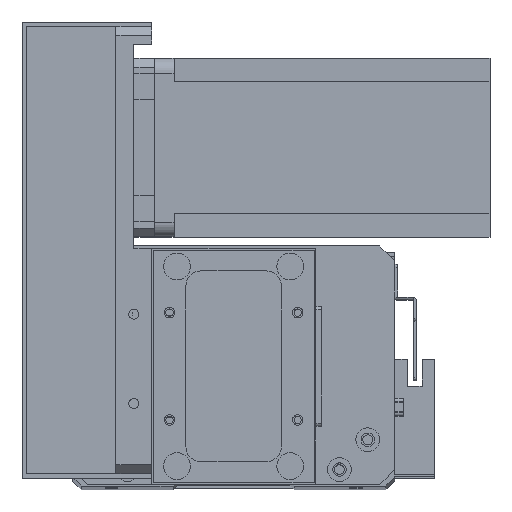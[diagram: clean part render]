
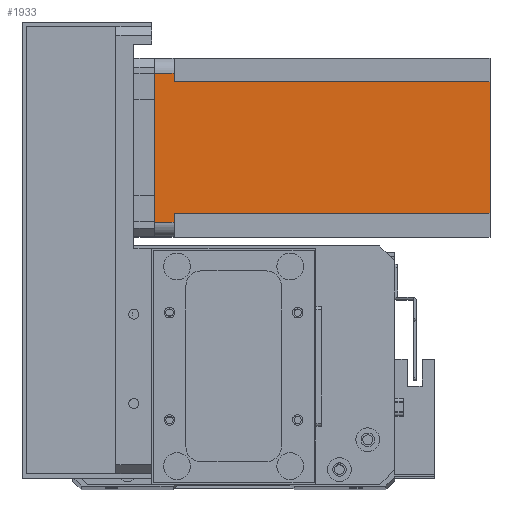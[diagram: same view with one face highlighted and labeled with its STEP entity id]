
A CAD part, top view. The second image highlights one B-rep face of the part: STEP entity #1933.
In plain terms, the highlighted planar face has unit normal (0, 0, 1) as drawn and (0, -1, 0) by its records, which use the part's own axes.
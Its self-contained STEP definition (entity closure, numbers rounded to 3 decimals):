
#82 = VERTEX_POINT ( 'NONE', #10373 ) ;
#87 = EDGE_LOOP ( 'NONE', ( #17890, #4438, #8247, #15625, #17835, #9539, #4761, #18033 ) ) ;
#455 = DIRECTION ( 'NONE',  ( 1., 0., 0. ) ) ;
#930 = DIRECTION ( 'NONE',  ( 1., 0., 0. ) ) ;
#957 = VERTEX_POINT ( 'NONE', #21508 ) ;
#1810 = VECTOR ( 'NONE', #18450, 1000. ) ;
#1891 = DIRECTION ( 'NONE',  ( 0., 0., -1. ) ) ;
#1933 = ADVANCED_FACE ( 'NONE', ( #11113 ), #17495, .T. ) ;
#2047 = VECTOR ( 'NONE', #8009, 1000. ) ;
#2125 = CARTESIAN_POINT ( 'NONE',  ( 8., 0., -112.5 ) ) ;
#2371 = CARTESIAN_POINT ( 'NONE',  ( 8., 0., -112.5 ) ) ;
#2840 = CARTESIAN_POINT ( 'NONE',  ( 5., 0., 0. ) ) ;
#3787 = LINE ( 'NONE', #19597, #26998 ) ;
#3862 = VERTEX_POINT ( 'NONE', #2125 ) ;
#4438 = ORIENTED_EDGE ( 'NONE', *, *, #26662, .T. ) ;
#4761 = ORIENTED_EDGE ( 'NONE', *, *, #27042, .T. ) ;
#5366 = LINE ( 'NONE', #8035, #10241 ) ;
#5520 = CARTESIAN_POINT ( 'NONE',  ( 0., 0., 0. ) ) ;
#6700 = DIRECTION ( 'NONE',  ( 0., 0., -1. ) ) ;
#8009 = DIRECTION ( 'NONE',  ( 1., 0., 0. ) ) ;
#8035 = CARTESIAN_POINT ( 'NONE',  ( 0., 0., -112.5 ) ) ;
#8247 = ORIENTED_EDGE ( 'NONE', *, *, #23447, .F. ) ;
#8429 = LINE ( 'NONE', #2371, #1810 ) ;
#8793 = LINE ( 'NONE', #10672, #24947 ) ;
#9539 = ORIENTED_EDGE ( 'NONE', *, *, #26910, .F. ) ;
#10241 = VECTOR ( 'NONE', #455, 1000. ) ;
#10373 = CARTESIAN_POINT ( 'NONE',  ( 52., 0., -6.5 ) ) ;
#10672 = CARTESIAN_POINT ( 'NONE',  ( 52., 0., -112.5 ) ) ;
#11082 = DIRECTION ( 'NONE',  ( 0., 0., 1. ) ) ;
#11113 = FACE_OUTER_BOUND ( 'NONE', #87, .T. ) ;
#12715 = CARTESIAN_POINT ( 'NONE',  ( 0., 0., -112.5 ) ) ;
#13038 = LINE ( 'NONE', #28134, #17980 ) ;
#13824 = CARTESIAN_POINT ( 'NONE',  ( 8., 0., -6.5 ) ) ;
#14032 = VECTOR ( 'NONE', #6700, 1000. ) ;
#14681 = LINE ( 'NONE', #24432, #14032 ) ;
#15625 = ORIENTED_EDGE ( 'NONE', *, *, #26732, .T. ) ;
#16104 = CARTESIAN_POINT ( 'NONE',  ( 8., 0., -6.5 ) ) ;
#16509 = CARTESIAN_POINT ( 'NONE',  ( 52., 0., -112.5 ) ) ;
#16586 = CARTESIAN_POINT ( 'NONE',  ( 55., 0., 0. ) ) ;
#17307 = VERTEX_POINT ( 'NONE', #16509 ) ;
#17495 = PLANE ( 'NONE',  #27602 ) ;
#17835 = ORIENTED_EDGE ( 'NONE', *, *, #26816, .F. ) ;
#17890 = ORIENTED_EDGE ( 'NONE', *, *, #26568, .T. ) ;
#17980 = VECTOR ( 'NONE', #930, 1000. ) ;
#18033 = ORIENTED_EDGE ( 'NONE', *, *, #27111, .F. ) ;
#18450 = DIRECTION ( 'NONE',  ( 0., 0., 1. ) ) ;
#19597 = CARTESIAN_POINT ( 'NONE',  ( 55., 0., -112.5 ) ) ;
#20230 = LINE ( 'NONE', #5520, #2047 ) ;
#20262 = DIRECTION ( 'NONE',  ( -1., 0., 0. ) ) ;
#21508 = CARTESIAN_POINT ( 'NONE',  ( 55., 0., -6.5 ) ) ;
#23447 = EDGE_CURVE ( 'NONE', #26414, #26996, #20230, .T. ) ;
#23882 = VERTEX_POINT ( 'NONE', #29393 ) ;
#24432 = CARTESIAN_POINT ( 'NONE',  ( 5., 0., -112.5 ) ) ;
#24947 = VECTOR ( 'NONE', #25917, 1000. ) ;
#24958 = VERTEX_POINT ( 'NONE', #16104 ) ;
#25917 = DIRECTION ( 'NONE',  ( 0., 0., -1. ) ) ;
#26414 = VERTEX_POINT ( 'NONE', #2840 ) ;
#26433 = DIRECTION ( 'NONE',  ( 0., -1., 0. ) ) ;
#26568 = EDGE_CURVE ( 'NONE', #82, #957, #13038, .T. ) ;
#26662 = EDGE_CURVE ( 'NONE', #957, #26996, #3787, .T. ) ;
#26732 = EDGE_CURVE ( 'NONE', #26414, #23882, #14681, .T. ) ;
#26816 = EDGE_CURVE ( 'NONE', #24958, #23882, #29374, .T. ) ;
#26910 = EDGE_CURVE ( 'NONE', #3862, #24958, #8429, .T. ) ;
#26996 = VERTEX_POINT ( 'NONE', #16586 ) ;
#26998 = VECTOR ( 'NONE', #11082, 1000. ) ;
#27042 = EDGE_CURVE ( 'NONE', #3862, #17307, #5366, .T. ) ;
#27111 = EDGE_CURVE ( 'NONE', #82, #17307, #8793, .T. ) ;
#27602 = AXIS2_PLACEMENT_3D ( 'NONE', #12715, #26433, #1891 ) ;
#28134 = CARTESIAN_POINT ( 'NONE',  ( 52., 0., -6.5 ) ) ;
#28688 = VECTOR ( 'NONE', #20262, 1000. ) ;
#29374 = LINE ( 'NONE', #13824, #28688 ) ;
#29393 = CARTESIAN_POINT ( 'NONE',  ( 5., 0., -6.5 ) ) ;
